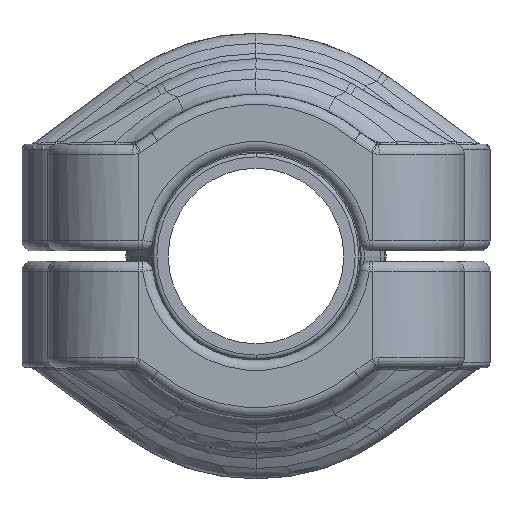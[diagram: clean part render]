
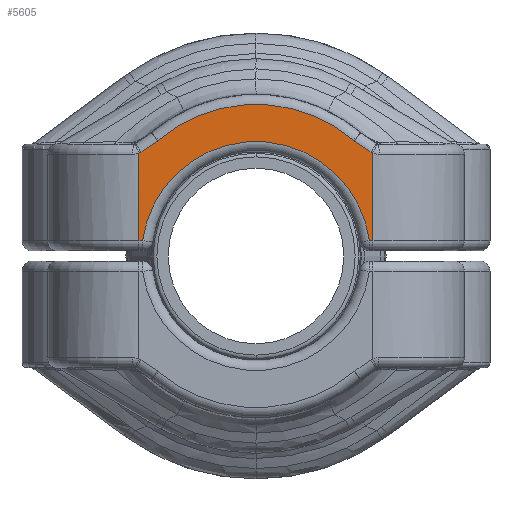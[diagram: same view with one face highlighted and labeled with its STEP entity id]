
A CAD part, left-side view. The second image highlights one B-rep face of the part: STEP entity #5605.
In plain terms, the highlighted planar face has unit normal (-1, 0, 0).
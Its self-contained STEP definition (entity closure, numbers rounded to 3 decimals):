
#2171=DIRECTION('',(0.,1.,0.));
#2172=VECTOR('',#2171,0.35);
#2173=CARTESIAN_POINT('',(-29.5,-11.5,1.5));
#2174=LINE('',#2173,#2172);
#2178=CARTESIAN_POINT('',(-29.5,0.,0.));
#2179=DIRECTION('',(-1.,0.,0.));
#2180=DIRECTION('',(0.,-0.991,0.133));
#2181=AXIS2_PLACEMENT_3D('',#2178,#2179,#2180);
#2186=DIRECTION('',(0.,1.,0.));
#2187=VECTOR('',#2186,0.35);
#2188=CARTESIAN_POINT('',(-29.5,11.15,1.5));
#2189=LINE('',#2188,#2187);
#2193=DIRECTION('',(0.,0.,1.));
#2194=VECTOR('',#2193,8.615);
#2195=CARTESIAN_POINT('',(-29.5,11.5,1.5));
#2196=LINE('',#2195,#2194);
#2200=CARTESIAN_POINT('',(-29.5,12.035,11.3));
#2201=DIRECTION('',(-1.,0.,0.));
#2202=DIRECTION('',(0.,-0.412,-0.911));
#2203=AXIS2_PLACEMENT_3D('',#2200,#2201,#2202);
#2208=DIRECTION('',(0.,-0.827,0.563));
#2209=VECTOR('',#2208,1.916);
#2210=CARTESIAN_POINT('',(-29.5,11.304,10.225));
#2211=LINE('',#2210,#2209);
#2215=CARTESIAN_POINT('',(-29.5,10.451,12.378));
#2216=DIRECTION('',(-1.,0.,0.));
#2217=DIRECTION('',(0.,-0.563,-0.827));
#2218=AXIS2_PLACEMENT_3D('',#2215,#2216,#2217);
#2223=CARTESIAN_POINT('',(-29.5,0.,0.));
#2224=DIRECTION('',(1.,0.,0.));
#2225=DIRECTION('',(0.,0.645,0.764));
#2226=AXIS2_PLACEMENT_3D('',#2223,#2224,#2225);
#2231=CARTESIAN_POINT('',(-29.5,-10.451,12.378));
#2232=DIRECTION('',(-1.,0.,0.));
#2233=DIRECTION('',(0.,0.645,-0.764));
#2234=AXIS2_PLACEMENT_3D('',#2231,#2232,#2233);
#2239=DIRECTION('',(0.,-0.827,-0.563));
#2240=VECTOR('',#2239,1.916);
#2241=CARTESIAN_POINT('',(-29.5,-9.72,11.303));
#2242=LINE('',#2241,#2240);
#2246=CARTESIAN_POINT('',(-29.5,-12.035,11.3));
#2247=DIRECTION('',(-1.,0.,0.));
#2248=DIRECTION('',(0.,0.563,-0.827));
#2249=AXIS2_PLACEMENT_3D('',#2246,#2247,#2248);
#2278=DIRECTION('',(0.,0.,1.));
#2279=VECTOR('',#2278,8.615);
#2280=CARTESIAN_POINT('',(-29.5,-11.5,1.5));
#2281=LINE('',#2280,#2279);
#2594=CARTESIAN_POINT('',(-29.5,11.5,10.115));
#4712=VERTEX_POINT('',#2594);
#4715=CARTESIAN_POINT('',(-29.5,11.304,10.225));
#4716=VERTEX_POINT('',#4715);
#4719=CARTESIAN_POINT('',(-29.5,9.72,11.303));
#4720=VERTEX_POINT('',#4719);
#4723=CARTESIAN_POINT('',(-29.5,9.613,11.384));
#4724=VERTEX_POINT('',#4723);
#4727=CARTESIAN_POINT('',(-29.5,-9.613,11.384));
#4728=VERTEX_POINT('',#4727);
#4731=CARTESIAN_POINT('',(-29.5,-9.72,11.303));
#4732=VERTEX_POINT('',#4731);
#4735=CARTESIAN_POINT('',(-29.5,-11.304,10.225));
#4736=VERTEX_POINT('',#4735);
#4739=CARTESIAN_POINT('',(-29.5,-11.5,10.115));
#4740=VERTEX_POINT('',#4739);
#4817=CARTESIAN_POINT('',(-29.5,11.5,1.5));
#4818=VERTEX_POINT('',#4817);
#4823=CARTESIAN_POINT('',(-29.5,-11.5,1.5));
#4824=CARTESIAN_POINT('',(-29.5,-11.15,1.5));
#4825=VERTEX_POINT('',#4823);
#4826=VERTEX_POINT('',#4824);
#4827=CARTESIAN_POINT('',(-29.5,11.15,1.5));
#4828=VERTEX_POINT('',#4827);
#5576=CARTESIAN_POINT('',(-29.5,-10.4,0.));
#5577=DIRECTION('',(-1.,0.,0.));
#5578=DIRECTION('',(0.,0.,1.));
#5579=AXIS2_PLACEMENT_3D('',#5576,#5577,#5578);
#5580=PLANE('',#5579);
#5582=ORIENTED_EDGE('',*,*,#5581,.T.);
#5583=ORIENTED_EDGE('',*,*,#5518,.T.);
#5584=ORIENTED_EDGE('',*,*,#5567,.T.);
#5586=ORIENTED_EDGE('',*,*,#5585,.T.);
#5588=ORIENTED_EDGE('',*,*,#5587,.T.);
#5590=ORIENTED_EDGE('',*,*,#5589,.T.);
#5592=ORIENTED_EDGE('',*,*,#5591,.T.);
#5594=ORIENTED_EDGE('',*,*,#5593,.T.);
#5596=ORIENTED_EDGE('',*,*,#5595,.T.);
#5598=ORIENTED_EDGE('',*,*,#5597,.T.);
#5600=ORIENTED_EDGE('',*,*,#5599,.T.);
#5602=ORIENTED_EDGE('',*,*,#5601,.F.);
#5603=EDGE_LOOP('',(#5582,#5583,#5584,#5586,#5588,#5590,#5592,#5594,#5596,#5598,
#5600,#5602));
#5604=FACE_OUTER_BOUND('',#5603,.F.);
#2182=CIRCLE('',#2181,11.25);
#2204=CIRCLE('',#2203,1.3);
#2219=CIRCLE('',#2218,1.3);
#2227=CIRCLE('',#2226,14.9);
#2235=CIRCLE('',#2234,1.3);
#2250=CIRCLE('',#2249,1.3);
#5518=EDGE_CURVE('',#4826,#4828,#2182,.T.);
#5567=EDGE_CURVE('',#4828,#4818,#2189,.T.);
#5581=EDGE_CURVE('',#4825,#4826,#2174,.T.);
#5585=EDGE_CURVE('',#4818,#4712,#2196,.T.);
#5587=EDGE_CURVE('',#4712,#4716,#2204,.T.);
#5589=EDGE_CURVE('',#4716,#4720,#2211,.T.);
#5591=EDGE_CURVE('',#4720,#4724,#2219,.T.);
#5593=EDGE_CURVE('',#4724,#4728,#2227,.T.);
#5595=EDGE_CURVE('',#4728,#4732,#2235,.T.);
#5597=EDGE_CURVE('',#4732,#4736,#2242,.T.);
#5599=EDGE_CURVE('',#4736,#4740,#2250,.T.);
#5601=EDGE_CURVE('',#4825,#4740,#2281,.T.);
#5605=ADVANCED_FACE('',(#5604),#5580,.T.);
